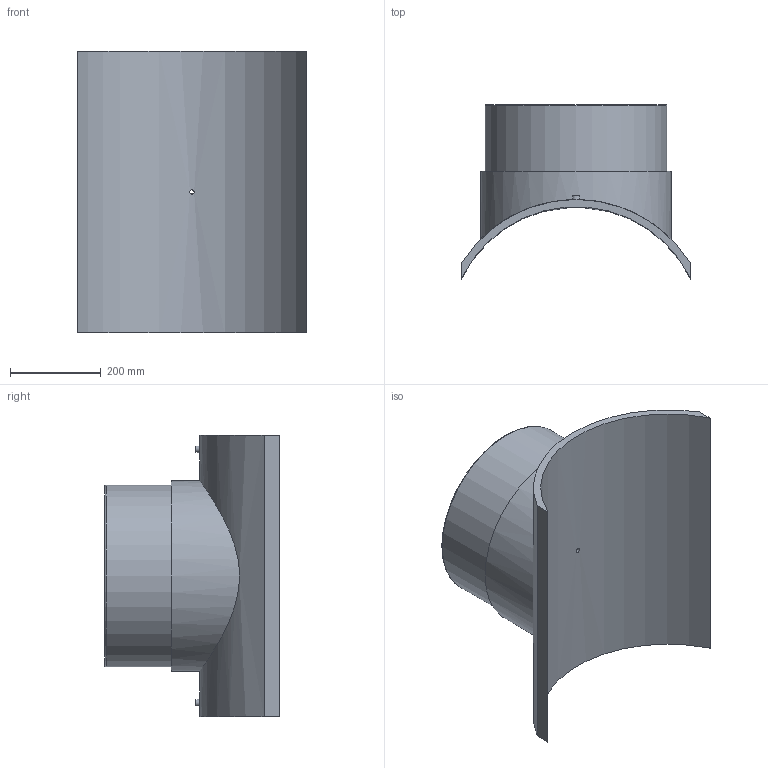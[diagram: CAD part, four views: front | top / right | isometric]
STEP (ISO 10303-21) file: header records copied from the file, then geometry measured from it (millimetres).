
FILE_DESCRIPTION(/* description */ ('PLASSON BRANCH SADDLE 560x400'),/* implementation_level */ '2;1');
FILE_NAME(/* name */ 'C:\Dropbox\KIMPROJECTS-Inventor 2019\99-16-3568-Processing\ElectroFusion Fittings\495803\stp\495803560400T.stp',/* time_stamp */ '2024-04-04T11:49:29+02:00',/* author */ ('KIM'),/* organization */ (''),/* preprocessor_version */ 'ST-DEVELOPER v17.2',/* originating_system */ 'Autodesk Inventor 2019',/* authorisation */ '');
FILE_SCHEMA (('AUTOMOTIVE_DESIGN { 1 0 10303 214 3 1 1 }'));
Length unit declared in the file: millimetre
Products named in the file (1): 495803560400T
Bounding box: 505 x 383.99 x 620 mm (x, y, z)
Volume: 18256906.4 mm3; surface area: 1381736.7 mm2
Topology: 1 solids, 1 shells, 29 faces, 60 edges, 43 vertices
Faces by surface type: plane 13, cylinder 12, torus 2, cone 2
Full cylindrical faces by diameter (mm): 4 x2, 9.6 x1, 10 x2, 16 x1, 320 x1, 400 x1, 420 x1
Entity records: 1118 total; most frequent: CARTESIAN_POINT 432, DIRECTION 139, ORIENTED_EDGE 120, EDGE_CURVE 60, AXIS2_PLACEMENT_3D 60, VERTEX_POINT 43, EDGE_LOOP 41, CIRCLE 30
